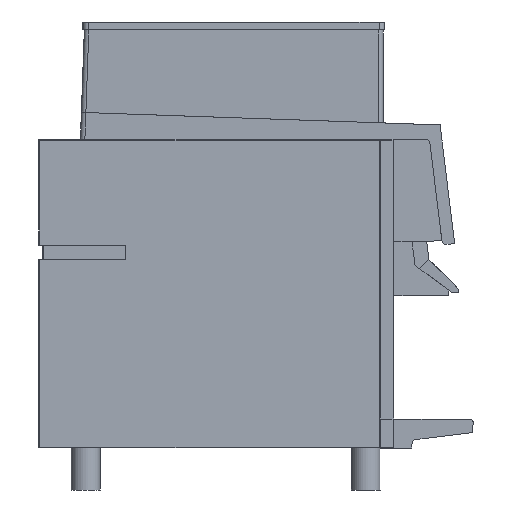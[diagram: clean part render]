
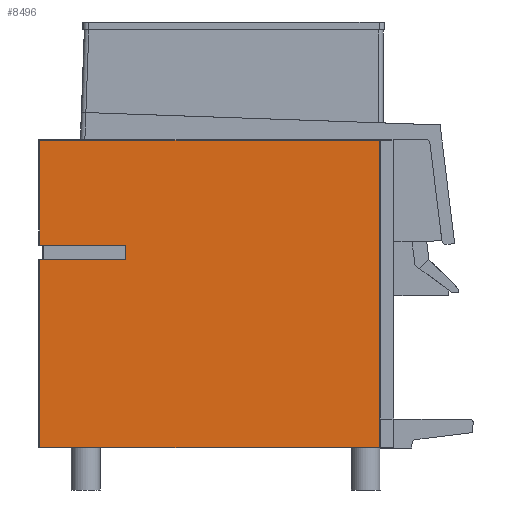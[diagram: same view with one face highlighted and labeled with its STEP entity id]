
A CAD part, left-side view. The second image highlights one B-rep face of the part: STEP entity #8496.
In plain terms, the highlighted planar face has unit normal (-1, 0, 0).
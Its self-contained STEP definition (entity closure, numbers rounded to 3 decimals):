
#479=LINE('',#11857,#1181);
#537=LINE('',#11994,#1239);
#538=LINE('',#11996,#1240);
#539=LINE('',#11998,#1241);
#540=LINE('',#12000,#1242);
#541=LINE('',#12002,#1243);
#542=LINE('',#12004,#1244);
#543=LINE('',#12006,#1245);
#544=LINE('',#12008,#1246);
#545=LINE('',#12010,#1247);
#1181=VECTOR('',#9895,1000.);
#1239=VECTOR('',#10021,1000.);
#1240=VECTOR('',#10022,1000.);
#1241=VECTOR('',#10023,1000.);
#1242=VECTOR('',#10024,1000.);
#1243=VECTOR('',#10025,1000.);
#1244=VECTOR('',#10026,1000.);
#1245=VECTOR('',#10027,1000.);
#1246=VECTOR('',#10028,1000.);
#1247=VECTOR('',#10029,1000.);
#2139=ORIENTED_EDGE('',*,*,#3795,.F.);
#2140=ORIENTED_EDGE('',*,*,#3868,.T.);
#2141=ORIENTED_EDGE('',*,*,#3869,.T.);
#2142=ORIENTED_EDGE('',*,*,#3870,.T.);
#2143=ORIENTED_EDGE('',*,*,#3871,.F.);
#2144=ORIENTED_EDGE('',*,*,#3872,.F.);
#2145=ORIENTED_EDGE('',*,*,#3873,.F.);
#2146=ORIENTED_EDGE('',*,*,#3874,.T.);
#2147=ORIENTED_EDGE('',*,*,#3875,.T.);
#2148=ORIENTED_EDGE('',*,*,#3876,.T.);
#3795=EDGE_CURVE('',#4651,#4652,#479,.T.);
#3868=EDGE_CURVE('',#4651,#4697,#537,.T.);
#3869=EDGE_CURVE('',#4697,#4698,#538,.F.);
#3870=EDGE_CURVE('',#4698,#4699,#539,.F.);
#3871=EDGE_CURVE('',#4700,#4699,#540,.T.);
#3872=EDGE_CURVE('',#4701,#4700,#541,.T.);
#3873=EDGE_CURVE('',#4702,#4701,#542,.T.);
#3874=EDGE_CURVE('',#4702,#4703,#543,.T.);
#3875=EDGE_CURVE('',#4703,#4704,#544,.T.);
#3876=EDGE_CURVE('',#4704,#4652,#545,.F.);
#4651=VERTEX_POINT('',#11856);
#4652=VERTEX_POINT('',#11858);
#4697=VERTEX_POINT('',#11995);
#4698=VERTEX_POINT('',#11997);
#4699=VERTEX_POINT('',#11999);
#4700=VERTEX_POINT('',#12001);
#4701=VERTEX_POINT('',#12003);
#4702=VERTEX_POINT('',#12005);
#4703=VERTEX_POINT('',#12007);
#4704=VERTEX_POINT('',#12009);
#5176=EDGE_LOOP('',(#2139,#2140,#2141,#2142,#2143,#2144,#2145,#2146,#2147,
#2148));
#5541=FACE_BOUND('',#5176,.T.);
#5880=PLANE('',#8951);
#8496=ADVANCED_FACE('',(#5541),#5880,.F.);
#8951=AXIS2_PLACEMENT_3D('',#11993,#10019,#10020);
#9895=DIRECTION('',(0.,1.,0.));
#10019=DIRECTION('',(1.,0.,0.));
#10020=DIRECTION('',(0.,1.,0.));
#10021=DIRECTION('',(0.,0.,1.));
#10022=DIRECTION('',(0.,-1.,0.));
#10023=DIRECTION('',(0.,0.,1.));
#10024=DIRECTION('',(0.,1.,0.));
#10025=DIRECTION('',(0.,1.,0.));
#10026=DIRECTION('',(0.,0.,1.));
#10027=DIRECTION('',(0.,1.,0.));
#10028=DIRECTION('',(0.,1.,0.));
#10029=DIRECTION('',(0.,0.,1.));
#11856=CARTESIAN_POINT('',(-284.,-470.,0.));
#11857=CARTESIAN_POINT('',(-284.,-490.,0.));
#11858=CARTESIAN_POINT('',(-284.,-1.2,0.));
#11993=CARTESIAN_POINT('',(-284.,0.,0.));
#11994=CARTESIAN_POINT('',(-284.,-470.,420.5));
#11995=CARTESIAN_POINT('',(-284.,-470.,424.8));
#11996=CARTESIAN_POINT('',(-284.,0.,424.8));
#11997=CARTESIAN_POINT('',(-284.,-1.2,424.8));
#11998=CARTESIAN_POINT('',(-284.,-1.2,0.));
#11999=CARTESIAN_POINT('',(-284.,-1.2,280.));
#12000=CARTESIAN_POINT('',(-284.,-5.,280.));
#12001=CARTESIAN_POINT('',(-284.,-5.133,280.));
#12002=CARTESIAN_POINT('',(-284.,-120.,280.));
#12003=CARTESIAN_POINT('',(-284.,-120.,280.));
#12004=CARTESIAN_POINT('',(-284.,-120.,260.));
#12005=CARTESIAN_POINT('',(-284.,-120.,260.));
#12006=CARTESIAN_POINT('',(-284.,-120.,260.));
#12007=CARTESIAN_POINT('',(-284.,-5.133,260.));
#12008=CARTESIAN_POINT('',(-284.,-5.,260.));
#12009=CARTESIAN_POINT('',(-284.,-1.2,260.));
#12010=CARTESIAN_POINT('',(-284.,-1.2,0.));
